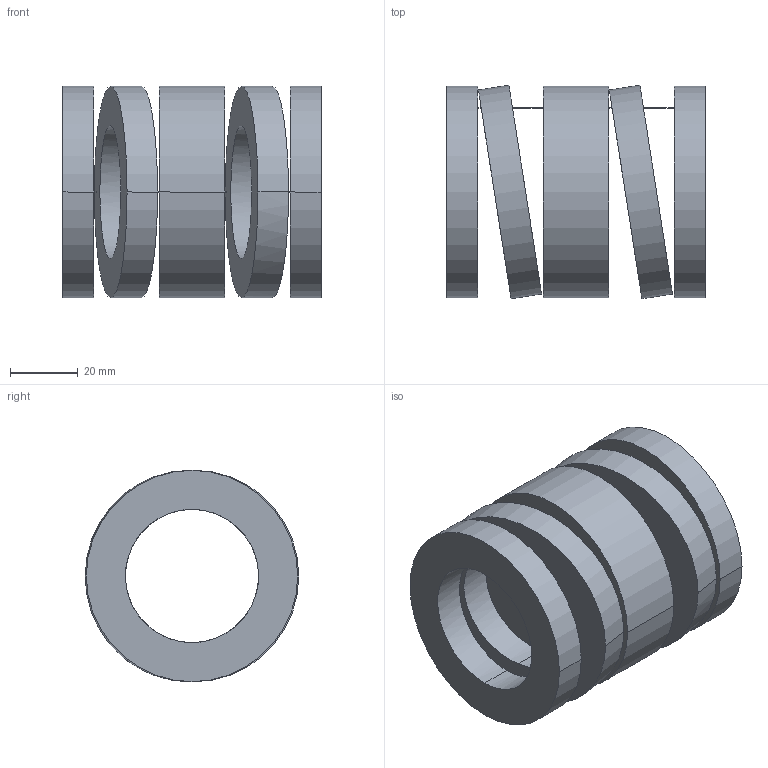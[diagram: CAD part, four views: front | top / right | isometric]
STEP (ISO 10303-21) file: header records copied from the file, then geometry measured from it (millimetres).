
FILE_DESCRIPTION(('CATIA V5 STEP Exchange'),'2;1');
FILE_NAME('C:\Users\Utente\Desktop\IO LAVORO\3D X SITO CF\X SITO\3D files 392B\392-B63-076.stp','2021-08-13T12:04:57+00:00',('none'),('none'),'CATIA Version 5 Release 20 GA (IN-10)','CATIA V5 STEP AP203','none');
FILE_SCHEMA(('CONFIG_CONTROL_DESIGN'));
Length unit declared in the file: millimetre
Products named in the file (1): 392-B63-076
Bounding box: 76 x 62.86 x 62.2 mm (x, y, z)
Volume: 101698.6 mm3; surface area: 36031.1 mm2
Topology: 1 solids, 1 shells, 38 faces, 92 edges, 64 vertices
Faces by surface type: cylinder 28, plane 10
Entity records: 1578 total; most frequent: CARTESIAN_POINT 691, ORIENTED_EDGE 184, DIRECTION 128, EDGE_CURVE 92, VERTEX_POINT 64, AXIS2_PLACEMENT_3D 63, EDGE_LOOP 56, B_SPLINE_CURVE_WITH_KNOTS 40
